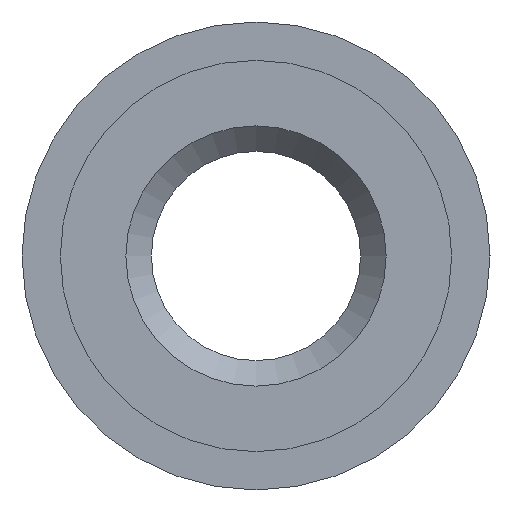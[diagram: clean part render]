
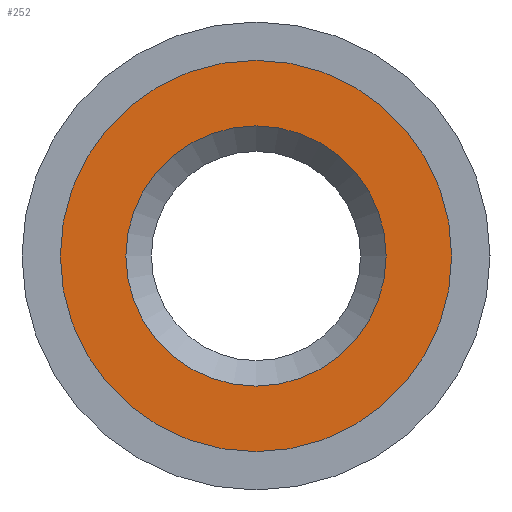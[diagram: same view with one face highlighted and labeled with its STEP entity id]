
A CAD part, left-side view. The second image highlights one B-rep face of the part: STEP entity #252.
In plain terms, the highlighted planar face has unit normal (-1, 0, 0).
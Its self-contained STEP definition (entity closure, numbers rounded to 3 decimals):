
#60=CARTESIAN_POINT('',(-54.798,44.466,76.507));
#61=VERTEX_POINT('',#60);
#62=CARTESIAN_POINT('',(-54.798,44.466,71.907));
#63=DIRECTION('',(-1.0,0.,0.0));
#64=DIRECTION('',(0.0,0.0,-1.0));
#65=AXIS2_PLACEMENT_3D('',#62,#63,#64);
#66=CIRCLE('',#65,4.6);
#67=EDGE_CURVE('',#61,#61,#66,.T.);
#188=CARTESIAN_POINT('',(-54.798,44.466,74.965));
#189=VERTEX_POINT('',#188);
#190=CARTESIAN_POINT('',(-54.798,44.466,71.907));
#191=DIRECTION('',(-1.0,0.,0.));
#192=DIRECTION('',(0.,0.,-1.0));
#193=AXIS2_PLACEMENT_3D('',#190,#191,#192);
#194=CIRCLE('',#193,3.059);
#195=EDGE_CURVE('',#189,#189,#194,.T.);
#241=CARTESIAN_POINT('',(-54.798,44.466,71.907));
#242=DIRECTION('',(1.0,0.,0.));
#243=DIRECTION('',(0.,0.,-1.0));
#244=AXIS2_PLACEMENT_3D('',#241,#242,#243);
#245=PLANE('',#244);
#246=ORIENTED_EDGE('',*,*,#67,.T.);
#247=EDGE_LOOP('',(#246));
#248=FACE_OUTER_BOUND('',#247,.T.);
#249=ORIENTED_EDGE('',*,*,#195,.F.);
#250=EDGE_LOOP('',(#249));
#251=FACE_BOUND('',#250,.T.);
#252=ADVANCED_FACE('',(#248,#251),#245,.F.);
